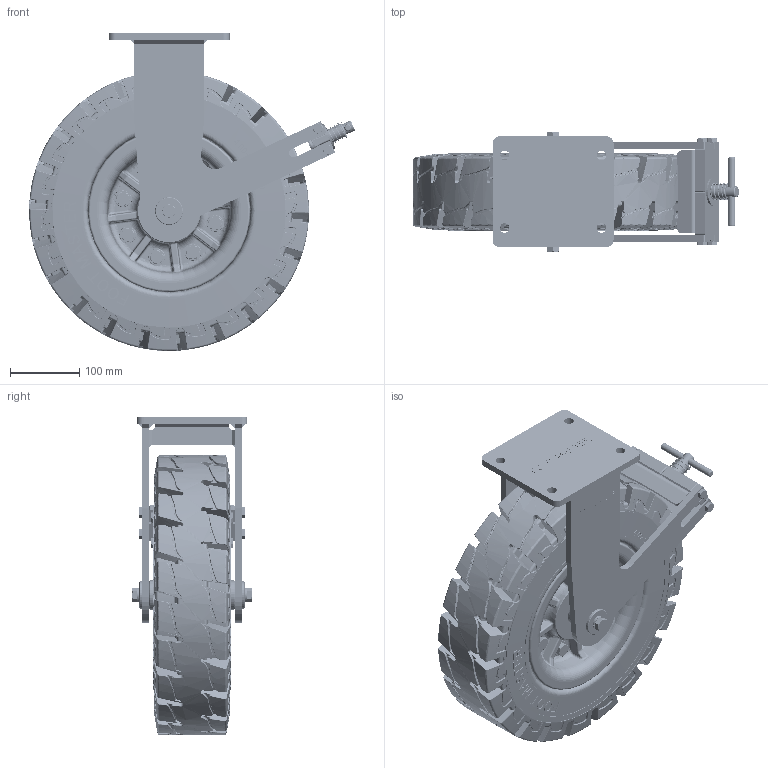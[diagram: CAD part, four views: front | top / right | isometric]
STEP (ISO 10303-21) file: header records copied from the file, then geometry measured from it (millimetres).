
FILE_DESCRIPTION(/* description */ (''),/* implementation_level */ '2;1');
FILE_NAME(/* name */ '\\192.168.10.38\지덕공유\1.기술연구소\2.연구개발 진행중\121.Solidtire caster_2024.11.22\제품설계\3D\홈페이지용\GT-400\44.GT-400-BRF-TRD.stp',/* time_stamp */ '2025-09-01T12:58:43+09:00',/* author */ ('admin'),/* organization */ (''),/* preprocessor_version */ 'ST-DEVELOPER v18.1',/* originating_system */ 'Autodesk Inventor 2021',/* authorisation */ '');
FILE_SCHEMA (('AUTOMOTIVE_DESIGN { 1 0 10303 214 3 1 1 }'));
Length unit declared in the file: millimetre
Products named in the file (1): 44.GT-400-BRF-TIRE-Rev01_2025.08.08_Shrinkwrap_1
Bounding box: 471.34 x 173 x 459.93 mm (x, y, z)
Volume: 13313051.4 mm3; surface area: 845192.5 mm2
Topology: 3 solids, 3 shells, 6095 faces, 15472 edges, 9475 vertices
Faces by surface type: bspline 3090, plane 1323, cylinder 817, torus 414, cone 331, sphere 120
Full cylindrical faces by diameter (mm): 1 x1, 10.2 x1, 12 x8, 14 x6, 16 x2, 18.5 x7, 20 x1, 24 x8, 40 x3, 42.7 x2, 258.997 x2, 317.998 x2, 333.998 x2, 336.998 x2
Entity records: 271445 total; most frequent: CARTESIAN_POINT 142429, ORIENTED_EDGE 30700, DIRECTION 17177, EDGE_CURVE 15350, VERTEX_POINT 9475, B_SPLINE_CURVE_WITH_KNOTS 7275, AXIS2_PLACEMENT_3D 6662, EDGE_LOOP 6345
